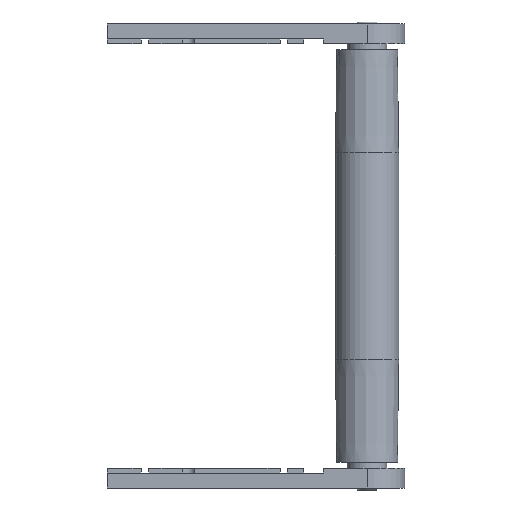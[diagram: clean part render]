
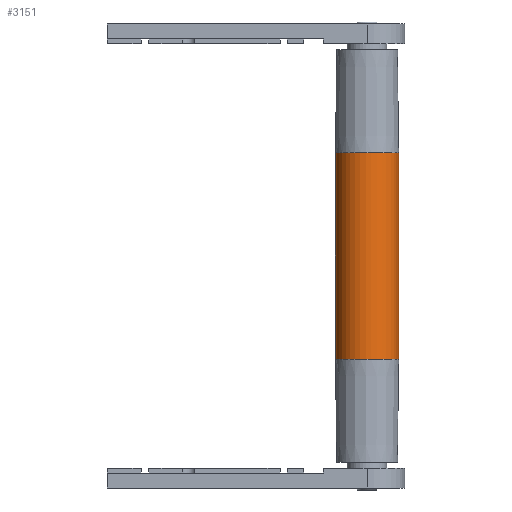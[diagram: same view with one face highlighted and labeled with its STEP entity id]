
A CAD part, front view. The second image highlights one B-rep face of the part: STEP entity #3151.
In plain terms, the highlighted cylindrical face has radius 16 mm (diameter 32 mm), a partial arc.
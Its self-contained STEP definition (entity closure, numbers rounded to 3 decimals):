
#142 = FACE_OUTER_BOUND ( 'NONE', #2696, .T. ) ;
#256 = VERTEX_POINT ( 'NONE', #3356 ) ;
#291 = AXIS2_PLACEMENT_3D ( 'NONE', #3992, #4390, #5740 ) ;
#411 = ORIENTED_EDGE ( 'NONE', *, *, #5195, .T. ) ;
#443 = EDGE_CURVE ( 'NONE', #590, #5551, #1266, .T. ) ;
#590 = VERTEX_POINT ( 'NONE', #4271 ) ;
#598 = CARTESIAN_POINT ( 'NONE',  ( -52., 0., -16. ) ) ;
#1029 = EDGE_CURVE ( 'NONE', #5551, #256, #5817, .T. ) ;
#1266 = LINE ( 'NONE', #1705, #3538 ) ;
#1559 = DIRECTION ( 'NONE',  ( -1., 0., 0. ) ) ;
#1592 = LINE ( 'NONE', #4528, #4993 ) ;
#1705 = CARTESIAN_POINT ( 'NONE',  ( 118., 0., -16. ) ) ;
#2041 = DIRECTION ( 'NONE',  ( 0., 0., 1. ) ) ;
#2207 = DIRECTION ( 'NONE',  ( -1., 0., 0. ) ) ;
#2214 = CARTESIAN_POINT ( 'NONE',  ( -52., 0., 0. ) ) ;
#2611 = ORIENTED_EDGE ( 'NONE', *, *, #2715, .T. ) ;
#2696 = EDGE_LOOP ( 'NONE', ( #3575, #2611, #411, #5527 ) ) ;
#2715 = EDGE_CURVE ( 'NONE', #590, #2793, #3305, .T. ) ;
#2793 = VERTEX_POINT ( 'NONE', #5381 ) ;
#3106 = DIRECTION ( 'NONE',  ( 0., 0., 1. ) ) ;
#3151 = ADVANCED_FACE ( 'NONE', ( #142 ), #3450, .T. ) ;
#3305 = CIRCLE ( 'NONE', #291, 16. ) ;
#3356 = CARTESIAN_POINT ( 'NONE',  ( -52., 0., 16. ) ) ;
#3387 = AXIS2_PLACEMENT_3D ( 'NONE', #2214, #3636, #3106 ) ;
#3450 = CYLINDRICAL_SURFACE ( 'NONE', #4284, 16. ) ;
#3538 = VECTOR ( 'NONE', #2207, 1000. ) ;
#3575 = ORIENTED_EDGE ( 'NONE', *, *, #443, .F. ) ;
#3636 = DIRECTION ( 'NONE',  ( -1., 0., 0. ) ) ;
#3932 = CARTESIAN_POINT ( 'NONE',  ( 118., 0., 0. ) ) ;
#3992 = CARTESIAN_POINT ( 'NONE',  ( 52., 0., 0. ) ) ;
#4271 = CARTESIAN_POINT ( 'NONE',  ( 52., 0., -16. ) ) ;
#4284 = AXIS2_PLACEMENT_3D ( 'NONE', #3932, #1559, #2041 ) ;
#4390 = DIRECTION ( 'NONE',  ( -1., 0., 0. ) ) ;
#4528 = CARTESIAN_POINT ( 'NONE',  ( 118., 0., 16. ) ) ;
#4993 = VECTOR ( 'NONE', #5425, 1000. ) ;
#5195 = EDGE_CURVE ( 'NONE', #2793, #256, #1592, .T. ) ;
#5381 = CARTESIAN_POINT ( 'NONE',  ( 52., 0., 16. ) ) ;
#5425 = DIRECTION ( 'NONE',  ( -1., 0., 0. ) ) ;
#5527 = ORIENTED_EDGE ( 'NONE', *, *, #1029, .F. ) ;
#5551 = VERTEX_POINT ( 'NONE', #598 ) ;
#5740 = DIRECTION ( 'NONE',  ( 0., 0., 1. ) ) ;
#5817 = CIRCLE ( 'NONE', #3387, 16. ) ;
